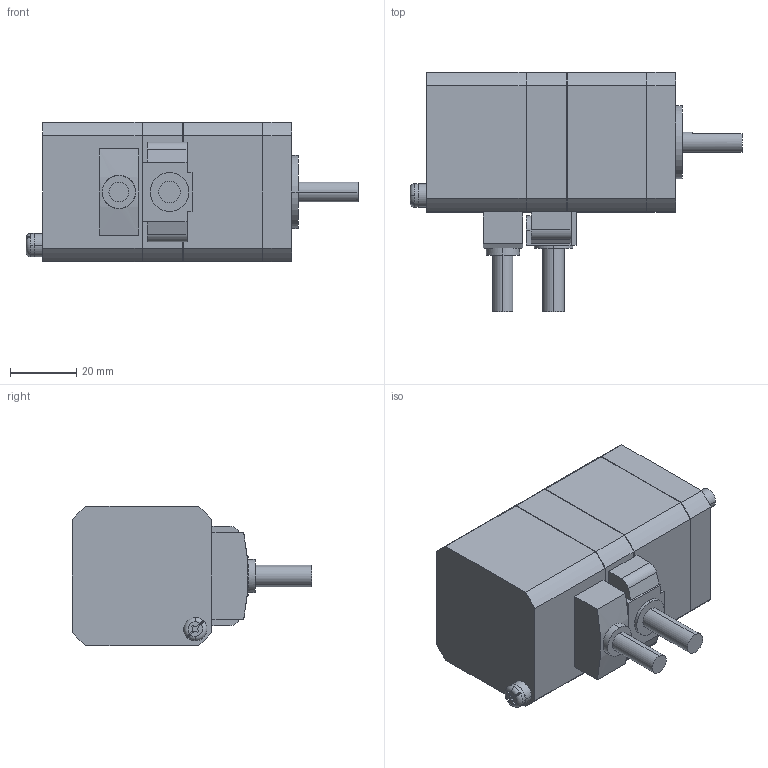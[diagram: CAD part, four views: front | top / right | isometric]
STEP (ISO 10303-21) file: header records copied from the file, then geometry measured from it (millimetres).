
FILE_DESCRIPTION( ( '' ), '1' );
FILE_NAME( 'Z:/14ＣＡＤ/01_CAD業務フォルダ/12_STEP書き出し/RK2/RKS545MA-1→B1007.stp', '2012-12-26T04:01:41', ( '' ), ( '' ), ' ', ' ', ' ' );
FILE_SCHEMA( ( 'CONFIG_CONTROL_DESIGN' ) );
Length unit declared in the file: millimetre
Products named in the file (1): 1
Bounding box: 100 x 72 x 42 mm (x, y, z)
Volume: 139782.6 mm3; surface area: 18645.6 mm2
Topology: 1 solids, 1 shells, 162 faces, 418 edges, 268 vertices
Faces by surface type: plane 79, cylinder 63, cone 16, torus 4
Entity records: 5062 total; most frequent: CARTESIAN_POINT 975, DIRECTION 876, ORIENTED_EDGE 820, EDGE_CURVE 410, AXIS2_PLACEMENT_3D 309, VERTEX_POINT 268, LINE 258, VECTOR 258
